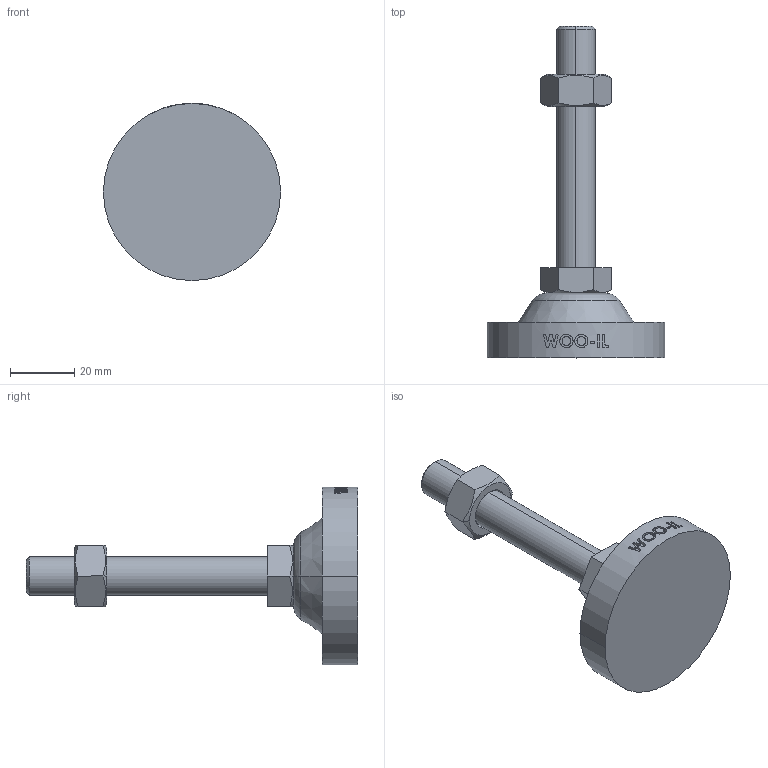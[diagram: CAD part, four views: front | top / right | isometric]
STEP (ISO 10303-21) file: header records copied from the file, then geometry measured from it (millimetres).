
FILE_DESCRIPTION (( 'STEP AP214' ), '1' );
FILE_NAME ('RB55-M12-75.step', '2021-01-18T05:49:38', ( '' ), ( '' ), 'SwSTEP 2.0', 'SolidWorks 2019', '' );
FILE_SCHEMA (( 'AUTOMOTIVE_DESIGN' ));
Length unit declared in the file: millimetre
Products named in the file (2): RB55-M12-75
Bounding box: 55 x 103 x 55 mm (x, y, z)
Volume: 42445.7 mm3; surface area: 13474.4 mm2
Topology: 2 solids, 3 shells, 128 faces, 317 edges, 206 vertices
Faces by surface type: plane 48, cylinder 42, bspline 18, cone 16, torus 4
Entity records: 5349 total; most frequent: CARTESIAN_POINT 2507, ORIENTED_EDGE 634, DIRECTION 479, EDGE_CURVE 317, VERTEX_POINT 206, AXIS2_PLACEMENT_3D 176, EDGE_LOOP 141, ADVANCED_FACE 128
